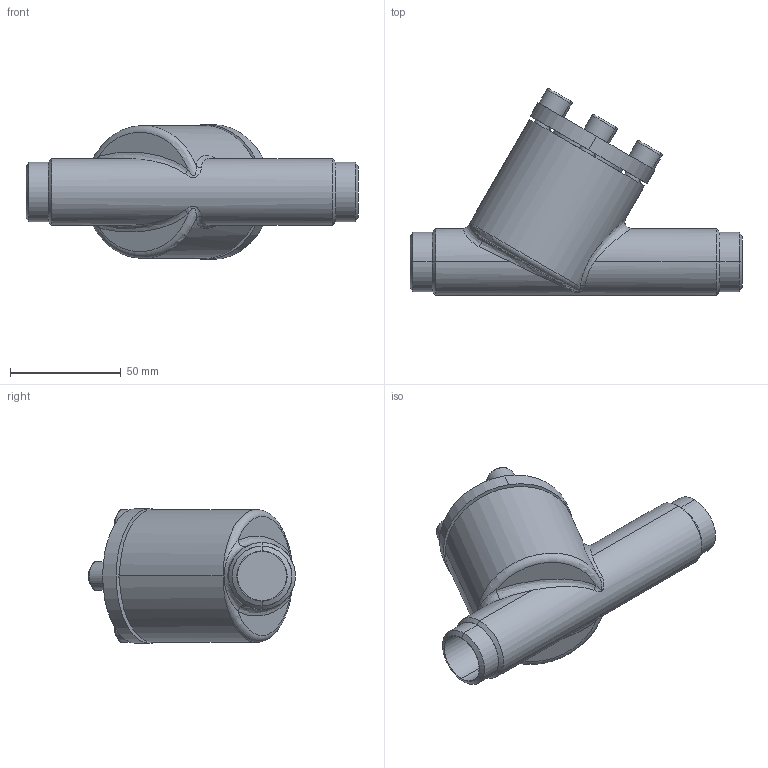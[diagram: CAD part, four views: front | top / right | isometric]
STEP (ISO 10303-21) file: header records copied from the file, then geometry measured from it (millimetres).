
FILE_DESCRIPTION (( 'STEP AP214' ), '1' );
FILE_NAME ('SS52300D11-DN020_R1_PS40.STEP', '2006-05-02T05:42:52', ( 'Herr Grams' ), ( 'AWP GmbH' ), 'SwSTEP 2.0', 'SolidWorks 2002296', '' );
FILE_SCHEMA (( 'AUTOMOTIVE_DESIGN' ));
Length unit declared in the file: millimetre
Products named in the file (5): SS52300D11-DN020_R1_PS40; Gehäuse16300-DN020_Standard; SS52300K10_Deck+Schr-DN10-20_Standard; Deckel52300K10-DN10-20_Standard; Zylinderschraube-DIN912_M 8x 16
Assembly tree (7 placements, depth 3):
  SS52300D11-DN020_R1_PS40
    Gehäuse16300-DN020_Standard
    SS52300K10_Deck+Schr-DN10-20_Standard
      Zylinderschraube-DIN912_M 8x 16  x4
      Deckel52300K10-DN10-20_Standard
Bounding box: 150 x 93.46 x 61 mm (x, y, z)
Volume: 212978.4 mm3; surface area: 48272.9 mm2
Topology: 6 solids, 6 shells, 134 faces, 287 edges, 181 vertices
Faces by surface type: plane 55, cylinder 47, cone 16, torus 10, bspline 6
Entity records: 15327 total; most frequent: CARTESIAN_POINT 13069, DIRECTION 416, ORIENTED_EDGE 346, AXIS2_PLACEMENT_3D 176, EDGE_CURVE 173, VERTEX_POINT 109, EDGE_LOOP 98, CIRCLE 91
